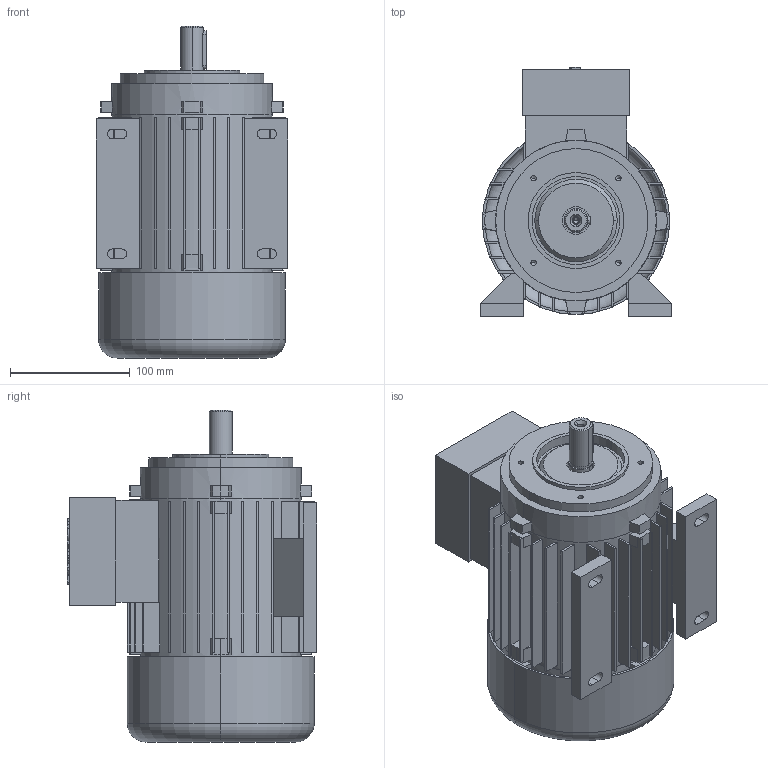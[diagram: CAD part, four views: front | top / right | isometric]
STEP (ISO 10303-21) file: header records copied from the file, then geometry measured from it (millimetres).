
FILE_DESCRIPTION (( 'STEP AP214' ), '1' );
FILE_NAME ('20.18270-F 5AZ 80 B34 small STANDK.STEP', '2018-07-16T10:58:36', ( '' ), ( '' ), 'SwSTEP 2.0', 'SolidWorks 2018', '' );
FILE_SCHEMA (( 'AUTOMOTIVE_DESIGN' ));
Length unit declared in the file: millimetre
Products named in the file (1): 20.18270-F 5AZ 80 B34 small STANDK
Bounding box: 160 x 208 x 277 mm (x, y, z)
Volume: 1612698.2 mm3; surface area: 503480.5 mm2
Topology: 6 solids, 6 shells, 528 faces, 1343 edges, 879 vertices
Faces by surface type: plane 334, cylinder 151, cone 30, bspline 9, torus 4
Entity records: 16137 total; most frequent: CARTESIAN_POINT 2945, DIRECTION 2795, ORIENTED_EDGE 2666, EDGE_CURVE 1333, AXIS2_PLACEMENT_3D 971, VERTEX_POINT 879, LINE 853, VECTOR 853
